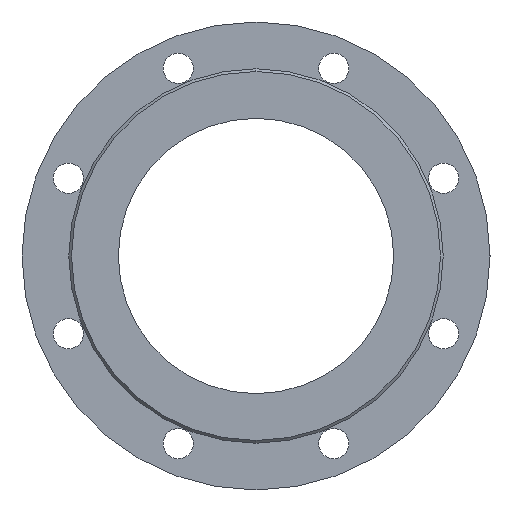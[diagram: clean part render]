
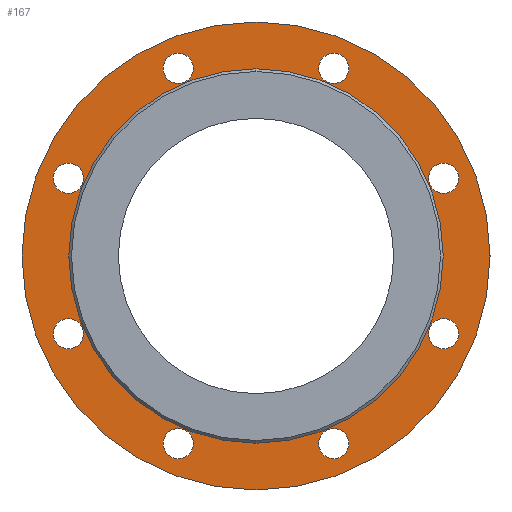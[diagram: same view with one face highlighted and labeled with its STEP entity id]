
A CAD part, left-side view. The second image highlights one B-rep face of the part: STEP entity #167.
In plain terms, the highlighted planar face has unit normal (-1, 0, 0).
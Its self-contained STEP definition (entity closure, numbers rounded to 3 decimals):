
#167=ADVANCED_FACE('',(#347,#348,#349,#350,#351,#352,#353,#354,#355,#356),#357,.F.);
#347=FACE_BOUND('',#608,.T.);
#348=FACE_BOUND('',#609,.T.);
#349=FACE_BOUND('',#610,.T.);
#350=FACE_BOUND('',#611,.T.);
#351=FACE_BOUND('',#612,.T.);
#352=FACE_BOUND('',#613,.T.);
#353=FACE_BOUND('',#614,.T.);
#354=FACE_BOUND('',#615,.T.);
#355=FACE_BOUND('',#616,.T.);
#356=FACE_OUTER_BOUND('',#617,.T.);
#357=PLANE('',#618);
#608=EDGE_LOOP('',(#926,#927));
#609=EDGE_LOOP('',(#928,#929));
#610=EDGE_LOOP('',(#930,#931));
#611=EDGE_LOOP('',(#932,#933));
#612=EDGE_LOOP('',(#934,#935));
#613=EDGE_LOOP('',(#936,#937));
#614=EDGE_LOOP('',(#938,#939));
#615=EDGE_LOOP('',(#940,#941));
#616=EDGE_LOOP('',(#942,#943));
#617=EDGE_LOOP('',(#944,#945));
#618=AXIS2_PLACEMENT_3D('',#946,#947,#948);
#926=ORIENTED_EDGE('',*,*,#1414,.T.);
#927=ORIENTED_EDGE('',*,*,#1409,.T.);
#928=ORIENTED_EDGE('',*,*,#1432,.T.);
#929=ORIENTED_EDGE('',*,*,#1433,.T.);
#930=ORIENTED_EDGE('',*,*,#1385,.T.);
#931=ORIENTED_EDGE('',*,*,#1434,.T.);
#932=ORIENTED_EDGE('',*,*,#1435,.T.);
#933=ORIENTED_EDGE('',*,*,#1436,.T.);
#934=ORIENTED_EDGE('',*,*,#1437,.T.);
#935=ORIENTED_EDGE('',*,*,#1428,.T.);
#936=ORIENTED_EDGE('',*,*,#1412,.T.);
#937=ORIENTED_EDGE('',*,*,#1364,.T.);
#938=ORIENTED_EDGE('',*,*,#1438,.T.);
#939=ORIENTED_EDGE('',*,*,#1418,.T.);
#940=ORIENTED_EDGE('',*,*,#1439,.T.);
#941=ORIENTED_EDGE('',*,*,#1440,.T.);
#942=ORIENTED_EDGE('',*,*,#1441,.T.);
#943=ORIENTED_EDGE('',*,*,#1359,.T.);
#944=ORIENTED_EDGE('',*,*,#1442,.F.);
#945=ORIENTED_EDGE('',*,*,#1398,.F.);
#946=CARTESIAN_POINT('',(2.0,0.0,0.));
#947=DIRECTION('',(1.0,0.0,0.));
#948=DIRECTION('',(0.,0.0,-1.0));
#1359=EDGE_CURVE('',#1588,#1586,#1589,.T.);
#1364=EDGE_CURVE('',#1597,#1595,#1598,.T.);
#1385=EDGE_CURVE('',#1626,#1630,#1632,.T.);
#1398=EDGE_CURVE('',#1653,#1648,#1655,.T.);
#1409=EDGE_CURVE('',#1668,#1672,#1674,.T.);
#1412=EDGE_CURVE('',#1595,#1597,#1677,.T.);
#1414=EDGE_CURVE('',#1672,#1668,#1679,.T.);
#1418=EDGE_CURVE('',#1685,#1683,#1686,.T.);
#1428=EDGE_CURVE('',#1703,#1701,#1704,.T.);
#1432=EDGE_CURVE('',#1709,#1710,#1711,.T.);
#1433=EDGE_CURVE('',#1710,#1709,#1712,.T.);
#1434=EDGE_CURVE('',#1630,#1626,#1713,.T.);
#1435=EDGE_CURVE('',#1714,#1715,#1716,.T.);
#1436=EDGE_CURVE('',#1715,#1714,#1717,.T.);
#1437=EDGE_CURVE('',#1701,#1703,#1718,.T.);
#1438=EDGE_CURVE('',#1683,#1685,#1719,.T.);
#1439=EDGE_CURVE('',#1720,#1721,#1722,.T.);
#1440=EDGE_CURVE('',#1721,#1720,#1723,.T.);
#1441=EDGE_CURVE('',#1586,#1588,#1724,.T.);
#1442=EDGE_CURVE('',#1648,#1653,#1725,.T.);
#1586=VERTEX_POINT('',#1915);
#1588=VERTEX_POINT('',#1918);
#1589=CIRCLE('',#1919,11.0);
#1595=VERTEX_POINT('',#1926);
#1597=VERTEX_POINT('',#1929);
#1598=CIRCLE('',#1930,11.0);
#1626=VERTEX_POINT('',#1963);
#1630=VERTEX_POINT('',#1968);
#1632=CIRCLE('',#1971,11.0);
#1648=VERTEX_POINT('',#1989);
#1653=VERTEX_POINT('',#1995);
#1655=CIRCLE('',#1998,170.0);
#1668=VERTEX_POINT('',#2013);
#1672=VERTEX_POINT('',#2018);
#1674=CIRCLE('',#2021,100.0);
#1677=CIRCLE('',#2024,11.0);
#1679=CIRCLE('',#2026,100.0);
#1683=VERTEX_POINT('',#2030);
#1685=VERTEX_POINT('',#2033);
#1686=CIRCLE('',#2034,11.0);
#1701=VERTEX_POINT('',#2052);
#1703=VERTEX_POINT('',#2055);
#1704=CIRCLE('',#2056,11.0);
#1709=VERTEX_POINT('',#2062);
#1710=VERTEX_POINT('',#2063);
#1711=CIRCLE('',#2064,11.0);
#1712=CIRCLE('',#2065,11.0);
#1713=CIRCLE('',#2066,11.0);
#1714=VERTEX_POINT('',#2067);
#1715=VERTEX_POINT('',#2068);
#1716=CIRCLE('',#2069,11.0);
#1717=CIRCLE('',#2070,11.0);
#1718=CIRCLE('',#2071,11.0);
#1719=CIRCLE('',#2072,11.0);
#1720=VERTEX_POINT('',#2073);
#1721=VERTEX_POINT('',#2074);
#1722=CIRCLE('',#2075,11.0);
#1723=CIRCLE('',#2076,11.0);
#1724=CIRCLE('',#2077,11.0);
#1725=CIRCLE('',#2078,170.0);
#1915=CARTESIAN_POINT('',(2.0,-56.446,-147.272));
#1918=CARTESIAN_POINT('',(2.,-56.446,-125.272));
#1919=AXIS2_PLACEMENT_3D('',#2289,#2290,#2291);
#1926=CARTESIAN_POINT('',(2.0,136.272,-67.446));
#1929=CARTESIAN_POINT('',(2.0,136.272,-45.446));
#1930=AXIS2_PLACEMENT_3D('',#2297,#2298,#2299);
#1963=CARTESIAN_POINT('',(2.0,56.446,125.272));
#1968=CARTESIAN_POINT('',(2.,56.446,147.272));
#1971=AXIS2_PLACEMENT_3D('',#2331,#2332,#2333);
#1989=CARTESIAN_POINT('',(2.,0.0,-170.0));
#1995=CARTESIAN_POINT('',(2.,0.,170.0));
#1998=AXIS2_PLACEMENT_3D('',#2353,#2354,#2355);
#2013=CARTESIAN_POINT('',(2.,0.,-100.0));
#2018=CARTESIAN_POINT('',(2.,0.,100.0));
#2021=AXIS2_PLACEMENT_3D('',#2369,#2370,#2371);
#2024=AXIS2_PLACEMENT_3D('',#2375,#2376,#2377);
#2026=AXIS2_PLACEMENT_3D('',#2378,#2379,#2380);
#2030=CARTESIAN_POINT('',(2.0,56.446,-147.272));
#2033=CARTESIAN_POINT('',(2.,56.446,-125.272));
#2034=AXIS2_PLACEMENT_3D('',#2385,#2386,#2387);
#2052=CARTESIAN_POINT('',(2.0,-56.446,125.272));
#2055=CARTESIAN_POINT('',(2.,-56.446,147.272));
#2056=AXIS2_PLACEMENT_3D('',#2401,#2402,#2403);
#2062=CARTESIAN_POINT('',(2.0,136.272,45.446));
#2063=CARTESIAN_POINT('',(2.0,136.272,67.446));
#2064=AXIS2_PLACEMENT_3D('',#2408,#2409,#2410);
#2065=AXIS2_PLACEMENT_3D('',#2411,#2412,#2413);
#2066=AXIS2_PLACEMENT_3D('',#2414,#2415,#2416);
#2067=CARTESIAN_POINT('',(2.0,-136.272,45.446));
#2068=CARTESIAN_POINT('',(2.0,-136.272,67.446));
#2069=AXIS2_PLACEMENT_3D('',#2417,#2418,#2419);
#2070=AXIS2_PLACEMENT_3D('',#2420,#2421,#2422);
#2071=AXIS2_PLACEMENT_3D('',#2423,#2424,#2425);
#2072=AXIS2_PLACEMENT_3D('',#2426,#2427,#2428);
#2073=CARTESIAN_POINT('',(2.0,-136.272,-67.446));
#2074=CARTESIAN_POINT('',(2.0,-136.272,-45.446));
#2075=AXIS2_PLACEMENT_3D('',#2429,#2430,#2431);
#2076=AXIS2_PLACEMENT_3D('',#2432,#2433,#2434);
#2077=AXIS2_PLACEMENT_3D('',#2435,#2436,#2437);
#2078=AXIS2_PLACEMENT_3D('',#2438,#2439,#2440);
#2289=CARTESIAN_POINT('',(2.,-56.446,-136.272));
#2290=DIRECTION('',(1.0,0.0,0.));
#2291=DIRECTION('',(0.,0.0,-1.0));
#2297=CARTESIAN_POINT('',(2.0,136.272,-56.446));
#2298=DIRECTION('',(1.0,0.0,0.));
#2299=DIRECTION('',(0.,0.0,-1.0));
#2331=CARTESIAN_POINT('',(2.,56.446,136.272));
#2332=DIRECTION('',(1.0,0.0,0.));
#2333=DIRECTION('',(0.,0.0,-1.0));
#2353=CARTESIAN_POINT('',(2.0,0.0,0.));
#2354=DIRECTION('',(1.0,0.0,0.));
#2355=DIRECTION('',(0.,0.0,-1.0));
#2369=CARTESIAN_POINT('',(2.0,0.0,0.));
#2370=DIRECTION('',(1.0,0.0,0.));
#2371=DIRECTION('',(0.,0.0,-1.0));
#2375=CARTESIAN_POINT('',(2.0,136.272,-56.446));
#2376=DIRECTION('',(1.0,0.0,0.));
#2377=DIRECTION('',(0.,0.0,-1.0));
#2378=CARTESIAN_POINT('',(2.0,0.0,0.));
#2379=DIRECTION('',(1.0,0.0,0.));
#2380=DIRECTION('',(0.,0.0,-1.0));
#2385=CARTESIAN_POINT('',(2.,56.446,-136.272));
#2386=DIRECTION('',(1.0,0.0,0.));
#2387=DIRECTION('',(0.,0.0,-1.0));
#2401=CARTESIAN_POINT('',(2.,-56.446,136.272));
#2402=DIRECTION('',(1.0,0.0,0.));
#2403=DIRECTION('',(0.,0.0,-1.0));
#2408=CARTESIAN_POINT('',(2.0,136.272,56.446));
#2409=DIRECTION('',(1.0,0.0,0.));
#2410=DIRECTION('',(0.,0.0,-1.0));
#2411=CARTESIAN_POINT('',(2.0,136.272,56.446));
#2412=DIRECTION('',(1.0,0.0,0.));
#2413=DIRECTION('',(0.,0.0,-1.0));
#2414=CARTESIAN_POINT('',(2.,56.446,136.272));
#2415=DIRECTION('',(1.0,0.0,0.));
#2416=DIRECTION('',(0.,0.0,-1.0));
#2417=CARTESIAN_POINT('',(2.0,-136.272,56.446));
#2418=DIRECTION('',(1.0,0.0,0.));
#2419=DIRECTION('',(0.,0.0,-1.0));
#2420=CARTESIAN_POINT('',(2.0,-136.272,56.446));
#2421=DIRECTION('',(1.0,0.0,0.));
#2422=DIRECTION('',(0.,0.0,-1.0));
#2423=CARTESIAN_POINT('',(2.,-56.446,136.272));
#2424=DIRECTION('',(1.0,0.0,0.));
#2425=DIRECTION('',(0.,0.0,-1.0));
#2426=CARTESIAN_POINT('',(2.,56.446,-136.272));
#2427=DIRECTION('',(1.0,0.0,0.));
#2428=DIRECTION('',(0.,0.0,-1.0));
#2429=CARTESIAN_POINT('',(2.0,-136.272,-56.446));
#2430=DIRECTION('',(1.0,0.0,0.));
#2431=DIRECTION('',(0.,0.0,-1.0));
#2432=CARTESIAN_POINT('',(2.0,-136.272,-56.446));
#2433=DIRECTION('',(1.0,0.0,0.));
#2434=DIRECTION('',(0.,0.0,-1.0));
#2435=CARTESIAN_POINT('',(2.,-56.446,-136.272));
#2436=DIRECTION('',(1.0,0.0,0.));
#2437=DIRECTION('',(0.,0.0,-1.0));
#2438=CARTESIAN_POINT('',(2.0,0.0,0.));
#2439=DIRECTION('',(1.0,0.0,0.));
#2440=DIRECTION('',(0.,0.0,-1.0));
